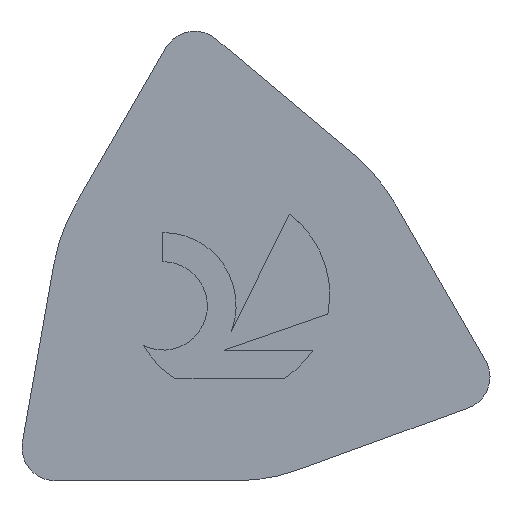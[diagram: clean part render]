
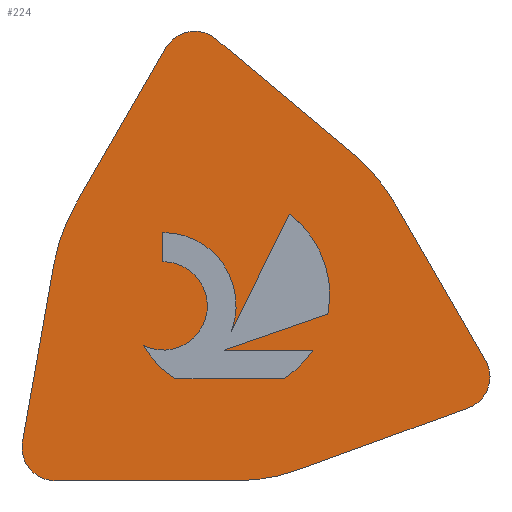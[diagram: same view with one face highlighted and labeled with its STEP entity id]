
A CAD part, top view. The second image highlights one B-rep face of the part: STEP entity #224.
In plain terms, the highlighted planar face has unit normal (0, 0, 1).
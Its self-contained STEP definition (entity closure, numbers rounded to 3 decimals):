
#178=VERTEX_POINT('',#502);
#180=EDGE_CURVE('',#300,#238,#504,.T.);
#182=EDGE_CURVE('',#296,#298,#506,.T.);
#186=VERTEX_POINT('',#510);
#192=EDGE_CURVE('',#464,#410,#516,.T.);
#200=VERTEX_POINT('',#524);
#208=VERTEX_POINT('',#534);
#224=ADVANCED_FACE('',(#552,#553),#554,.T.);
#228=EDGE_CURVE('',#308,#392,#558,.T.);
#232=EDGE_CURVE('',#240,#382,#562,.T.);
#238=VERTEX_POINT('',#568);
#240=VERTEX_POINT('',#570);
#252=VERTEX_POINT('',#584);
#260=VERTEX_POINT('',#593);
#268=VERTEX_POINT('',#601);
#272=EDGE_CURVE('',#326,#268,#605,.T.);
#278=EDGE_CURVE('',#178,#308,#612,.T.);
#288=EDGE_CURVE('',#382,#350,#623,.T.);
#292=EDGE_CURVE('',#430,#452,#627,.T.);
#296=VERTEX_POINT('',#631);
#298=VERTEX_POINT('',#633);
#300=VERTEX_POINT('',#635);
#308=VERTEX_POINT('',#644);
#310=EDGE_CURVE('',#410,#178,#646,.T.);
#314=EDGE_CURVE('',#200,#398,#650,.T.);
#316=EDGE_CURVE('',#268,#208,#652,.T.);
#326=VERTEX_POINT('',#664);
#328=EDGE_CURVE('',#408,#260,#666,.T.);
#350=VERTEX_POINT('',#692);
#360=EDGE_CURVE('',#238,#240,#703,.T.);
#366=EDGE_CURVE('',#186,#464,#709,.T.);
#374=EDGE_CURVE('',#452,#408,#717,.T.);
#382=VERTEX_POINT('',#725);
#392=VERTEX_POINT('',#736);
#398=VERTEX_POINT('',#742);
#400=EDGE_CURVE('',#398,#252,#744,.T.);
#408=VERTEX_POINT('',#753);
#410=VERTEX_POINT('',#755);
#412=EDGE_CURVE('',#350,#186,#757,.T.);
#418=EDGE_CURVE('',#392,#300,#764,.T.);
#424=EDGE_CURVE('',#298,#200,#771,.T.);
#430=VERTEX_POINT('',#778);
#446=EDGE_CURVE('',#252,#326,#795,.T.);
#452=VERTEX_POINT('',#801);
#464=VERTEX_POINT('',#815);
#472=EDGE_CURVE('',#208,#430,#824,.T.);
#484=EDGE_CURVE('',#260,#296,#838,.T.);
#502=CARTESIAN_POINT('',(7.17,3.154,0.0));
#504=CIRCLE('',#849,1.066);
#506=LINE('',#852,#853);
#510=CARTESIAN_POINT('',(6.597,6.433,0.0));
#516=LINE('',#868,#869);
#524=CARTESIAN_POINT('',(11.332,2.908,0.0));
#534=CARTESIAN_POINT('',(1.449,6.675,0.0));
#552=FACE_BOUND('',#919,.T.);
#553=FACE_OUTER_BOUND('',#920,.T.);
#554=PLANE('',#921);
#558=LINE('',#926,#927);
#562=LINE('',#934,#935);
#568=CARTESIAN_POINT('',(4.033,5.171,0.0));
#570=CARTESIAN_POINT('',(3.549,5.284,0.0));
#584=CARTESIAN_POINT('',(8.164,7.859,0.0));
#593=CARTESIAN_POINT('',(5.303,0.0,0.0));
#601=CARTESIAN_POINT('',(3.624,10.442,0.0));
#605=CIRCLE('',#994,0.8);
#612=CIRCLE('',#1002,2.416);
#623=CIRCLE('',#1019,1.755);
#627=LINE('',#1023,#1024);
#631=CARTESIAN_POINT('',(6.825,0.268,0.0));
#633=CARTESIAN_POINT('',(10.913,1.756,0.0));
#635=CARTESIAN_POINT('',(3.078,3.264,0.0));
#644=CARTESIAN_POINT('',(6.475,2.466,0.0));
#646=LINE('',#1048,#1049);
#650=LINE('',#1056,#1057);
#652=LINE('',#1060,#1061);
#664=CARTESIAN_POINT('',(4.831,10.655,0.0));
#666=LINE('',#1076,#1077);
#692=CARTESIAN_POINT('',(5.2,3.6,0.0));
#703=CIRCLE('',#1122,1.066);
#709=CIRCLE('',#1132,2.416);
#717=CIRCLE('',#1147,0.8);
#725=CARTESIAN_POINT('',(3.549,5.985,0.0));
#736=CARTESIAN_POINT('',(3.842,2.466,0.0));
#742=CARTESIAN_POINT('',(9.157,6.675,0.0));
#744=CIRCLE('',#1183,4.45);
#753=CARTESIAN_POINT('',(0.953,0.0,0.0));
#755=CARTESIAN_POINT('',(5.036,3.154,0.0));
#757=LINE('',#1199,#1200);
#764=CIRCLE('',#1210,2.416);
#771=CIRCLE('',#1220,0.8);
#778=CARTESIAN_POINT('',(0.921,5.223,0.0));
#795=LINE('',#1252,#1253);
#801=CARTESIAN_POINT('',(0.166,0.939,0.0));
#815=CARTESIAN_POINT('',(7.528,4.02,0.0));
#824=CIRCLE('',#1289,4.45);
#838=CIRCLE('',#1310,4.45);
#849=AXIS2_PLACEMENT_3D('',#1312,#1313,#1314);
#852=CARTESIAN_POINT('',(6.825,0.268,0.0));
#853=VECTOR('',#1315,1.0);
#868=CARTESIAN_POINT('',(5.356,3.265,0.0));
#869=VECTOR('',#1318,1.0);
#919=EDGE_LOOP('',(#1364,#1365,#1366,#1367,#1368,#1369,#1370,#1371,#1372,#1373,#1374));
#920=EDGE_LOOP('',(#1375,#1376,#1377,#1378,#1379,#1380,#1381,#1382,#1383,#1384,#1385,#1386));
#921=AXIS2_PLACEMENT_3D('',#1387,#1388,#1389);
#926=CARTESIAN_POINT('',(4.573,2.466,0.0));
#927=VECTOR('',#1390,1.0);
#934=CARTESIAN_POINT('',(3.549,5.218,0.0));
#935=VECTOR('',#1392,1.0);
#994=AXIS2_PLACEMENT_3D('',#1433,#1434,#1435);
#1002=AXIS2_PLACEMENT_3D('',#1444,#1445,#1446);
#1019=AXIS2_PLACEMENT_3D('',#1460,#1461,#1462);
#1023=CARTESIAN_POINT('',(0.921,5.223,0.0));
#1024=VECTOR('',#1464,1.0);
#1048=CARTESIAN_POINT('',(6.237,3.154,0.0));
#1049=VECTOR('',#1475,1.0);
#1056=CARTESIAN_POINT('',(11.332,2.908,0.0));
#1057=VECTOR('',#1477,1.0);
#1060=CARTESIAN_POINT('',(3.624,10.442,0.0));
#1061=VECTOR('',#1478,1.0);
#1076=CARTESIAN_POINT('',(0.953,0.0,0.0));
#1077=VECTOR('',#1495,1.0);
#1122=AXIS2_PLACEMENT_3D('',#1543,#1544,#1545);
#1132=AXIS2_PLACEMENT_3D('',#1550,#1551,#1552);
#1147=AXIS2_PLACEMENT_3D('',#1556,#1557,#1558);
#1183=AXIS2_PLACEMENT_3D('',#1572,#1573,#1574);
#1199=CARTESIAN_POINT('',(6.077,5.379,0.0));
#1200=VECTOR('',#1583,1.0);
#1210=AXIS2_PLACEMENT_3D('',#1594,#1595,#1596);
#1220=AXIS2_PLACEMENT_3D('',#1606,#1607,#1608);
#1252=CARTESIAN_POINT('',(8.164,7.859,0.0));
#1253=VECTOR('',#1632,1.0);
#1289=AXIS2_PLACEMENT_3D('',#1664,#1665,#1666);
#1310=AXIS2_PLACEMENT_3D('',#1693,#1694,#1695);
#1312=CARTESIAN_POINT('',(3.555,4.218,0.0));
#1313=DIRECTION('',(0.0,0.0,1.0));
#1314=DIRECTION('',(-0.447,-0.894,0.0));
#1315=DIRECTION('',(0.94,0.342,0.0));
#1318=DIRECTION('',(-0.945,-0.328,0.0));
#1364=ORIENTED_EDGE('',*,*,#232,.T.);
#1365=ORIENTED_EDGE('',*,*,#288,.T.);
#1366=ORIENTED_EDGE('',*,*,#412,.T.);
#1367=ORIENTED_EDGE('',*,*,#366,.T.);
#1368=ORIENTED_EDGE('',*,*,#192,.T.);
#1369=ORIENTED_EDGE('',*,*,#310,.T.);
#1370=ORIENTED_EDGE('',*,*,#278,.T.);
#1371=ORIENTED_EDGE('',*,*,#228,.T.);
#1372=ORIENTED_EDGE('',*,*,#418,.T.);
#1373=ORIENTED_EDGE('',*,*,#180,.T.);
#1374=ORIENTED_EDGE('',*,*,#360,.T.);
#1375=ORIENTED_EDGE('',*,*,#328,.T.);
#1376=ORIENTED_EDGE('',*,*,#484,.T.);
#1377=ORIENTED_EDGE('',*,*,#182,.T.);
#1378=ORIENTED_EDGE('',*,*,#424,.T.);
#1379=ORIENTED_EDGE('',*,*,#314,.T.);
#1380=ORIENTED_EDGE('',*,*,#400,.T.);
#1381=ORIENTED_EDGE('',*,*,#446,.T.);
#1382=ORIENTED_EDGE('',*,*,#272,.T.);
#1383=ORIENTED_EDGE('',*,*,#316,.T.);
#1384=ORIENTED_EDGE('',*,*,#472,.T.);
#1385=ORIENTED_EDGE('',*,*,#292,.T.);
#1386=ORIENTED_EDGE('',*,*,#374,.T.);
#1387=CARTESIAN_POINT('',(5.303,4.45,0.0));
#1388=DIRECTION('',(0.0,0.0,1.0));
#1389=DIRECTION('',(1.0,0.0,0.0));
#1390=DIRECTION('',(-1.0,0.0,0.0));
#1392=DIRECTION('',(0.0,1.0,0.0));
#1433=CARTESIAN_POINT('',(4.317,10.042,0.0));
#1434=DIRECTION('',(0.0,-0.0,1.0));
#1435=DIRECTION('',(0.643,0.766,0.0));
#1444=CARTESIAN_POINT('',(5.159,4.492,0.0));
#1445=DIRECTION('',(0.0,-0.0,-1.0));
#1446=DIRECTION('',(0.545,-0.838,0.0));
#1460=CARTESIAN_POINT('',(3.562,4.231,0.0));
#1461=DIRECTION('',(0.0,-0.0,-1.0));
#1462=DIRECTION('',(0.933,-0.359,0.0));
#1464=DIRECTION('',(-0.174,-0.985,0.0));
#1475=DIRECTION('',(1.0,0.0,0.0));
#1477=DIRECTION('',(-0.5,0.866,0.0));
#1478=DIRECTION('',(-0.5,-0.866,0.0));
#1495=DIRECTION('',(1.0,0.0,0.0));
#1543=CARTESIAN_POINT('',(3.555,4.218,0.0));
#1544=DIRECTION('',(0.0,0.0,1.0));
#1545=DIRECTION('',(-0.447,-0.894,0.0));
#1550=CARTESIAN_POINT('',(5.159,4.492,0.0));
#1551=DIRECTION('',(0.0,-0.0,-1.0));
#1552=DIRECTION('',(0.981,-0.196,0.0));
#1556=CARTESIAN_POINT('',(0.953,0.8,0.0));
#1557=DIRECTION('',(0.0,0.0,1.0));
#1558=DIRECTION('',(-0.985,0.174,0.0));
#1572=CARTESIAN_POINT('',(5.303,4.45,0.0));
#1573=DIRECTION('',(0.0,-0.0,1.0));
#1574=DIRECTION('',(0.866,0.5,0.0));
#1583=DIRECTION('',(0.442,0.897,-0.0));
#1594=CARTESIAN_POINT('',(5.159,4.492,0.0));
#1595=DIRECTION('',(-0.0,0.0,-1.0));
#1596=DIRECTION('',(-0.861,-0.508,0.0));
#1606=CARTESIAN_POINT('',(10.639,2.508,0.0));
#1607=DIRECTION('',(0.0,0.0,1.0));
#1608=DIRECTION('',(0.342,-0.94,0.0));
#1632=DIRECTION('',(-0.766,0.643,0.0));
#1664=CARTESIAN_POINT('',(5.303,4.45,0.0));
#1665=DIRECTION('',(0.0,0.0,1.0));
#1666=DIRECTION('',(-0.866,0.5,0.0));
#1693=CARTESIAN_POINT('',(5.303,4.45,0.0));
#1694=DIRECTION('',(0.0,0.0,1.0));
#1695=DIRECTION('',(0.,-1.0,0.0));
